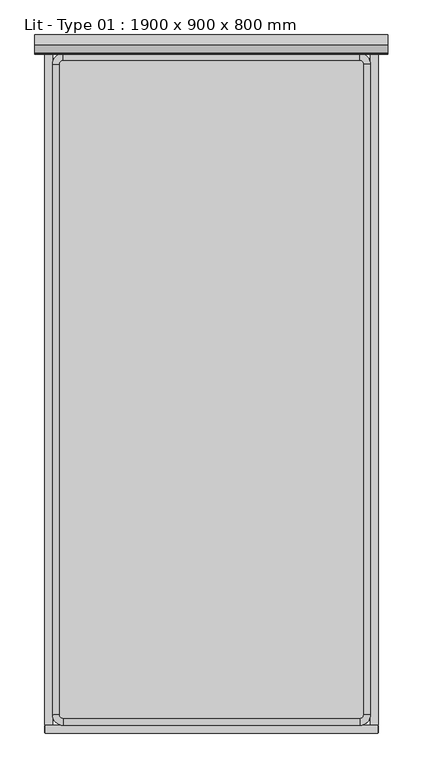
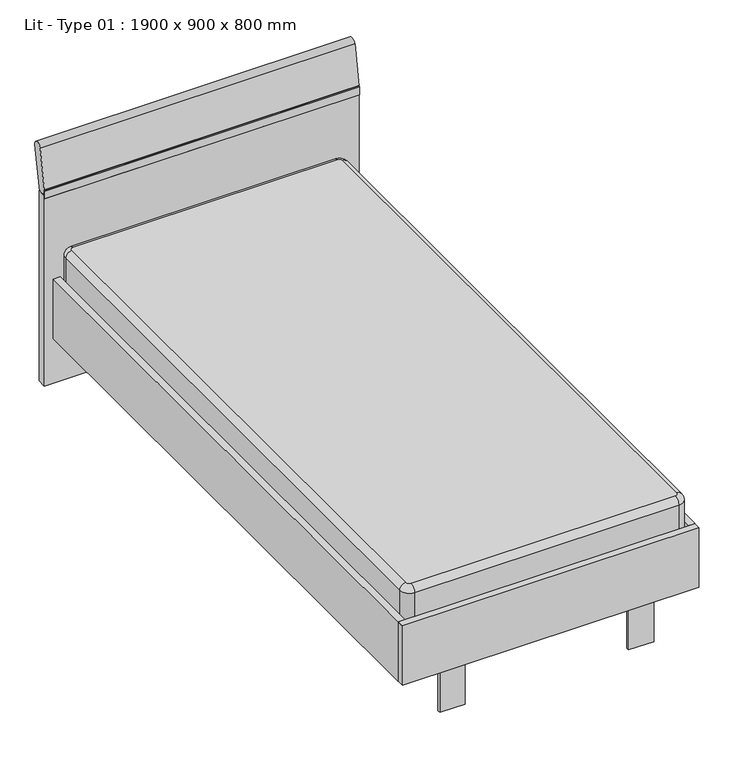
"""IFC4 building model written with IfcOpenShell, lengths in millimetres: furniture geometry, Lit - Type 01 : 1900 x 900 x 800 mm."""

from ifc_helpers import new_model, si_unit, point, frame, frame_2d, origin, origin_with_axes, place, context, project, spatial, polyline, circle_curve, ellipse_curve, trimmed, segment, composite_curve, outline, extrude, faceted_brep, source, transform, mapped, element, save
from ifc_brep_helpers import plane_surface, cylinder_surface, revolved_surface, advanced_brep


def lit_type_01_1900_x_900_x_800_mm_2dd96a01(model_context):
    return source(origin(), model_context, "Body", "SolidModel", [
        faceted_brep([(470.5857864, -1922.0, 150.0), (470.5857864, -1922.0, 350.0), (-470.5857864, -1922.0, 350.0), (-470.5857864, -1922.0, 150.0), (470.5857864, -1900.0, 350.0), (470.5857864, -1900.0, 150.0), (-470.5857864, -1900.0, 150.0), (-470.5857864, -1900.0, 350.0), (472.0, -1901.4142136, 348.5857864), (472.0, -1920.5857864, 348.5857864), (472.0, -1920.5857864, 151.4142136), (472.0, -1901.4142136, 151.4142136), (-472.0, -1920.5857864, 348.5857864), (-472.0, -1901.4142136, 348.5857864), (-472.0, -1901.4142136, 151.4142136), (-472.0, -1920.5857864, 151.4142136)], [[[0, 1, 2, 3]], [[4, 5, 6, 7]], [[8, 9, 10, 11]], [[5, 0, 3, 6]], [[12, 13, 14, 15]], [[1, 4, 7, 2]], [[8, 4, 1, 9]], [[4, 8, 11, 5]], [[5, 11, 10, 0]], [[9, 1, 0, 10]], [[12, 2, 7, 13]], [[2, 12, 15, 3]], [[3, 15, 14, 6]], [[13, 7, 6, 14]]]),
        extrude(outline(polyline([(-472.0, 0.0), (-450.0, 0.0), (-450.0, -1900.0), (-470.5857864, -1900.0), (-472.0, -1898.5857864), (-472.0, 0.0)])), frame((0.0, 0.0, 150.0), z_axis=(0.0, 0.0, 1.0), x_axis=(1.0, 0.0, 0.0)), (0.0, 0.0, 1.0), 200.0),
        extrude(outline(polyline([(450.0, 0.0), (472.0, 0.0), (472.0, -1898.5857864), (470.5857864, -1900.0), (450.0, -1900.0), (450.0, 0.0)])), frame((0.0, 0.0, 150.0), z_axis=(0.0, 0.0, 1.0), x_axis=(1.0, 0.0, 0.0)), (0.0, 0.0, 1.0), 200.0),
        advanced_brep(
        [(-430.0, -1870.0, 450.0), (-420.0, -1880.0, 450.0), (420.0, -1880.0, 450.0), (430.0, -1870.0, 450.0), (430.0, -30.0, 450.0), (420.0, -20.0, 450.0), (-420.0, -20.0, 450.0), (-430.0, -30.0, 450.0), (420.0, 0.0, 200.0), (450.0, -30.0, 200.0), (450.0, -1870.0, 200.0), (420.0, -1900.0, 200.0), (-420.0, -1900.0, 200.0), (-450.0, -1870.0, 200.0), (-450.0, -30.0, 200.0), (-420.0, 0.0, 200.0), (-420.0, 0.0, 430.0), (420.0, 0.0, 430.0), (-450.0, -30.0, 429.9999998), (-450.0, -1870.0, 429.9999998), (-420.0, -1900.0, 429.9999998), (420.0, -1900.0, 430.0), (450.0, -1870.0, 429.9999998), (450.0, -30.0, 430.0)],
        [
            (0, 1, circle_curve(frame((-420.0, -1870.0, 450.0), z_axis=(0.0, 0.0, 1.0), x_axis=(-1.0, 0.0, 0.0)), 10.0)),
            (1, 2),
            (2, 3, circle_curve(frame((420.0, -1870.0, 450.0), z_axis=(0.0, 0.0, 1.0), x_axis=(0.0, -1.0, 0.0)), 10.0)),
            (3, 4),
            (4, 5, circle_curve(frame((420.0, -30.0, 450.0), z_axis=(0.0, 0.0, 1.0), x_axis=(1.0, 0.0, 0.0)), 10.0)),
            (5, 6),
            (6, 7, circle_curve(frame((-420.0, -30.0, 450.0), z_axis=(0.0, 0.0, 1.0), x_axis=(0.0, 1.0, 0.0)), 10.0)),
            (7, 0),
            (8, 9, circle_curve(frame((420.0, -30.0, 200.0), z_axis=(0.0, 0.0, -1.0), x_axis=(-1.0, 0.0, 0.0)), 30.0)),
            (9, 10),
            (10, 11, circle_curve(frame((420.0, -1870.0, 200.0), z_axis=(0.0, 0.0, -1.0), x_axis=(-1.0, 0.0, 0.0)), 30.0)),
            (11, 12),
            (12, 13, circle_curve(frame((-420.0, -1870.0, 200.0), z_axis=(0.0, 0.0, -1.0), x_axis=(-1.0, 0.0, 0.0)), 30.0)),
            (13, 14),
            (14, 15, circle_curve(frame((-420.0, -30.0, 200.0), z_axis=(0.0, 0.0, -1.0), x_axis=(-1.0, 0.0, 0.0)), 30.0)),
            (15, 8),
            (15, 16),
            (16, 17),
            (17, 8),
            (14, 18),
            (18, 16, circle_curve(frame((-420.0, -30.0, 430.0), z_axis=(0.0, 0.0, -1.0), x_axis=(-1.0, 0.0, 0.0)), 30.0)),
            (13, 19),
            (19, 18),
            (12, 20),
            (20, 19, circle_curve(frame((-420.0, -1870.0, 430.0), z_axis=(0.0, 0.0, -1.0), x_axis=(-1.0, 0.0, 0.0)), 30.0)),
            (11, 21),
            (21, 20),
            (10, 22),
            (22, 21, circle_curve(frame((420.0, -1870.0, 430.0), z_axis=(0.0, 0.0, -1.0), x_axis=(-1.0, 0.0, 0.0)), 30.0)),
            (9, 23),
            (23, 22),
            (17, 23, circle_curve(frame((420.0, -30.0, 430.0), z_axis=(0.0, 0.0, -1.0), x_axis=(-1.0, 0.0, 0.0)), 30.0)),
            (20, 1, circle_curve(frame((-420.0, -1880.0, 430.0), z_axis=(-1.0, 0.0, 0.0), x_axis=(0.0, 1.0, 0.0)), 20.0)),
            (0, 19, circle_curve(frame((-430.0, -1870.0, 430.0), z_axis=(0.0, -1.0, 0.0), x_axis=(1.0, 0.0, 0.0)), 20.0)),
            (21, 2, circle_curve(frame((420.0, -1880.0, 430.0), z_axis=(-1.0, 0.0, 0.0), x_axis=(0.0, 1.0, 0.0)), 20.0)),
            (22, 3, circle_curve(frame((430.0, -1870.0, 430.0), z_axis=(0.0, -1.0, 0.0), x_axis=(-1.0, 0.0, 0.0)), 20.0)),
            (23, 4, circle_curve(frame((430.0, -30.0, 430.0), z_axis=(0.0, -1.0, 0.0), x_axis=(-1.0, 0.0, 0.0)), 20.0)),
            (17, 5, circle_curve(frame((420.0, -20.0, 430.0), z_axis=(1.0, 0.0, 0.0), x_axis=(0.0, -1.0, 0.0)), 20.0)),
            (16, 6, circle_curve(frame((-420.0, -20.0, 430.0), z_axis=(1.0, 0.0, 0.0), x_axis=(0.0, -1.0, 0.0)), 20.0)),
            (18, 7, circle_curve(frame((-430.0, -30.0, 430.0), z_axis=(0.0, 1.0, 0.0), x_axis=(1.0, 0.0, 0.0)), 20.0)),
        ],
        [
            plane_surface(frame((-420.0, 0.0, 450.0), z_axis=(0.0, 0.0, 1.0), x_axis=(-1.0, 0.0, 0.0))),
            plane_surface(frame((-420.0, 0.0, 200.0), z_axis=(0.0, 0.0, -1.0), x_axis=(1.0, 0.0, 0.0))),
            plane_surface(frame((420.0, 0.0, 450.0), z_axis=(0.0, 1.0, 0.0), x_axis=(0.0, 0.0, -1.0))),
            cylinder_surface(frame((-420.0, -30.0, 200.0), z_axis=(0.0, 0.0, 1.0), x_axis=(-1.0, 0.0, 0.0)), 30.0),
            plane_surface(frame((-450.0, -30.0, 450.0), z_axis=(-1.0, 0.0, 0.0), x_axis=(0.0, 0.0, -1.0))),
            cylinder_surface(frame((-420.0, -1870.0, 200.0), z_axis=(0.0, 0.0, 1.0), x_axis=(-1.0, 0.0, 0.0)), 30.0),
            plane_surface(frame((-420.0, -1900.0, 450.0), z_axis=(0.0, -1.0, 0.0), x_axis=(0.0, 0.0, -1.0))),
            cylinder_surface(frame((420.0, -1870.0, 200.0), z_axis=(0.0, 0.0, 1.0), x_axis=(-1.0, 0.0, 0.0)), 30.0),
            plane_surface(frame((450.0, -1870.0, 450.0), z_axis=(1.0, 0.0, 0.0), x_axis=(0.0, 0.0, -1.0))),
            cylinder_surface(frame((420.0, -30.0, 200.0), z_axis=(0.0, 0.0, 1.0), x_axis=(-1.0, 0.0, 0.0)), 30.0),
            revolved_surface(trimmed(ellipse_curve(frame((-430.0, -1870.0, 430.0), z_axis=(0.0, 1.0, 0.0), x_axis=(1.0, 0.0, 0.0)), 20.0, 20.0), [point((-450.0, -1870.0, 430.0))], [point((-430.0, -1870.0, 450.0))], True, "CARTESIAN"), (-420.0, -1870.0, 450.0), (0.0, 0.0, 1.0)),
            cylinder_surface(frame((-420.0, -1880.0, 430.0), z_axis=(1.0, 0.0, 0.0), x_axis=(0.0, 1.0, 0.0)), 20.0),
            revolved_surface(trimmed(ellipse_curve(frame((420.0, -1880.0, 430.0), z_axis=(-1.0, 0.0, 0.0), x_axis=(0.0, 1.0, 0.0)), 20.0, 20.0), [point((420.0, -1900.0, 430.0))], [point((420.0, -1880.0, 450.0))], True, "CARTESIAN"), (420.0, -1870.0, 450.0), (0.0, 0.0, 1.0)),
            cylinder_surface(frame((430.0, -1870.0, 430.0), z_axis=(0.0, 1.0, 0.0), x_axis=(-1.0, 0.0, 0.0)), 20.0),
            revolved_surface(trimmed(ellipse_curve(frame((430.0, -30.0, 430.0), z_axis=(0.0, -1.0, 0.0), x_axis=(-1.0, 0.0, 0.0)), 20.0, 20.0), [point((450.0, -30.0, 430.0))], [point((430.0, -30.0, 450.0))], True, "CARTESIAN"), (420.0, -30.0, 450.0), (0.0, 0.0, 1.0)),
            cylinder_surface(frame((420.0, -20.0, 430.0), z_axis=(-1.0, 0.0, 0.0), x_axis=(0.0, -1.0, 0.0)), 20.0),
            revolved_surface(trimmed(ellipse_curve(frame((-420.0, -20.0, 430.0), z_axis=(1.0, 0.0, 0.0), x_axis=(0.0, -1.0, 0.0)), 20.0, 20.0), [point((-420.0, 0.0, 430.0))], [point((-420.0, -20.0, 450.0))], True, "CARTESIAN"), (-420.0, -30.0, 450.0), (0.0, 0.0, 1.0)),
            cylinder_surface(frame((-430.0, -30.0, 430.0), z_axis=(0.0, -1.0, 0.0), x_axis=(1.0, 0.0, 0.0)), 20.0),
        ],
        [
            (0, [[1, 2, 3, 4, 5, 6, 7, 8]]),
            (1, [[9, 10, 11, 12, 13, 14, 15, 16]]),
            (2, [[-16, 17, 18, 19]]),
            (3, [[-15, 20, 21, -17]]),
            (4, [[-14, 22, 23, -20]]),
            (5, [[-13, 24, 25, -22]]),
            (6, [[-12, 26, 27, -24]]),
            (7, [[-11, 28, 29, -26]]),
            (8, [[-10, 30, 31, -28]]),
            (9, [[-9, -19, 32, -30]]),
            (10, [[33, -1, 34, -25]]),
            (11, [[-33, -27, 35, -2]]),
            (12, [[-35, -29, 36, -3]]),
            (13, [[-36, -31, 37, -4]]),
            (14, [[-37, -32, 38, -5]]),
            (15, [[-38, -18, 39, -6]]),
            (16, [[-39, -21, 40, -7]]),
            (17, [[-34, -8, -40, -23]]),
        ],
    ),
        extrude(outline(composite_curve([segment(trimmed(circle_curve(frame_2d((37.5742631, 782.9795436)), 15.0), [point((22.8021468, 785.5842662))], [point((52.3463794, 780.3748209))], False, "CARTESIAN"), True, "CONTINUOUS"), segment(polyline([(52.3463794, 780.3748209), (29.7721163, 652.349813)]), True, "CONTINUOUS"), segment(trimmed(circle_curve(frame_2d((15.0, 654.9545357)), 15.0), [point((29.7721163, 652.349813))], [point((0.2278837, 657.5592583))], False, "CARTESIAN"), True, "CONTINUOUS"), segment(polyline([(0.2278837, 657.5592583), (22.8021468, 785.5842662)]), True, "CONTINUOUS")], self_intersect=False)), frame((-500.0, 0.0, 0.0), z_axis=(1.0, 0.0, 0.0), x_axis=(0.0, 1.0, 0.0)), (0.0, 0.0, 1.0), 1000.0),
        extrude(outline(polyline([(-500.0, 30.0), (500.0, 30.0), (500.0, 0.0), (-500.0, 0.0), (-500.0, 30.0)])), origin_with_axes(), (0.0, 0.0, 1.0), 640.0),
        extrude(outline(composite_curve([segment(polyline([(-1890.0, 0.0), (-1900.0, 0.0), (-1900.0, 185.0)]), True, "CONTINUOUS"), segment(trimmed(circle_curve(frame_2d((-1885.0, 185.0)), 15.0), [point((-1900.0, 185.0))], [point((-1885.0, 200.0))], False, "CARTESIAN"), True, "CONTINUOUS"), segment(polyline([(-1885.0, 200.0), (0.0, 200.0), (0.0, 190.0), (-1885.0, 190.0)]), True, "CONTINUOUS"), segment(trimmed(circle_curve(frame_2d((-1885.0, 185.0)), 5.0), [point((-1885.0, 190.0))], [point((-1890.0, 185.0))], True, "CARTESIAN"), True, "CONTINUOUS"), segment(polyline([(-1890.0, 185.0), (-1890.0, 0.0)]), True, "CONTINUOUS")], self_intersect=False)), frame((-340.0, 0.0, 0.0), z_axis=(1.0, 0.0, 0.0), x_axis=(0.0, 1.0, 0.0)), (0.0, 0.0, 1.0), 80.0),
        extrude(outline(composite_curve([segment(polyline([(-1890.0, 0.0), (-1900.0, 0.0), (-1900.0, 185.0)]), True, "CONTINUOUS"), segment(trimmed(circle_curve(frame_2d((-1885.0, 185.0)), 15.0), [point((-1900.0, 185.0))], [point((-1885.0, 200.0))], False, "CARTESIAN"), True, "CONTINUOUS"), segment(polyline([(-1885.0, 200.0), (0.0, 200.0), (0.0, 190.0), (-1885.0, 190.0)]), True, "CONTINUOUS"), segment(trimmed(circle_curve(frame_2d((-1885.0, 185.0)), 5.0), [point((-1885.0, 190.0))], [point((-1890.0, 185.0))], True, "CARTESIAN"), True, "CONTINUOUS"), segment(polyline([(-1890.0, 185.0), (-1890.0, 0.0)]), True, "CONTINUOUS")], self_intersect=False)), frame((260.0, 0.0, 0.0), z_axis=(1.0, 0.0, 0.0), x_axis=(0.0, 1.0, 0.0)), (0.0, 0.0, 1.0), 80.0),
        extrude(outline(composite_curve([segment(polyline([(0.0, 640.0), (0.0, 630.0), (-1.2985029, 630.0), (-2.0085632, 630.7100603), (-2.0085632, 656.5656482), (-1.5049835, 659.4215904), (-0.68241, 659.9975626), (0.5961594, 659.7721163), (0.2042296, 657.4213512)]), True, "CONTINUOUS"), segment(trimmed(circle_curve(frame_2d((15.0, 654.9545357)), 15.0), [point((0.2042296, 657.4213512))], [point((13.8330112, 640.0))], True, "CARTESIAN"), True, "CONTINUOUS"), segment(polyline([(13.8330112, 640.0), (0.0, 640.0)]), True, "CONTINUOUS")], self_intersect=False)), frame((-500.0, 0.0, 0.0), z_axis=(1.0, 0.0, 0.0), x_axis=(0.0, 1.0, 0.0)), (0.0, 0.0, 1.0), 1000.0),
    ])


if __name__ == "__main__":
    model = new_model("IFC4")
    model_context = context("Model", 3, world=origin())
    ifc_project = project(units=[si_unit("LENGTHUNIT", "METRE", prefix="MILLI")], contexts=[model_context])
    site = spatial("IfcSite", under=ifc_project)
    building = spatial("IfcBuilding", under=site)
    placement = place(None, origin())
    lit_type_01_1900_x_900_x_800_mm_shape = lit_type_01_1900_x_900_x_800_mm_2dd96a01(model_context)
    element("IfcFurniture", 1, ObjectType="Lit - Type 01 : 1900 x 900 x 800 mm", at=placement, inside=building, context=model_context, shape_type="MappedRepresentation", body=[
        mapped(lit_type_01_1900_x_900_x_800_mm_shape, transform((0.0, 0.0, 0.0), x_axis=(1.0, 0.0, 0.0), y_axis=(0.0, 1.0, 0.0), z_axis=(0.0, 0.0, 1.0))),
    ])
    save(model, "model.ifc")
